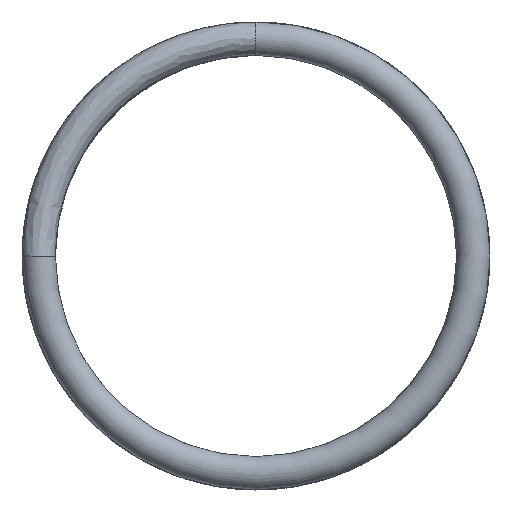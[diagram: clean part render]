
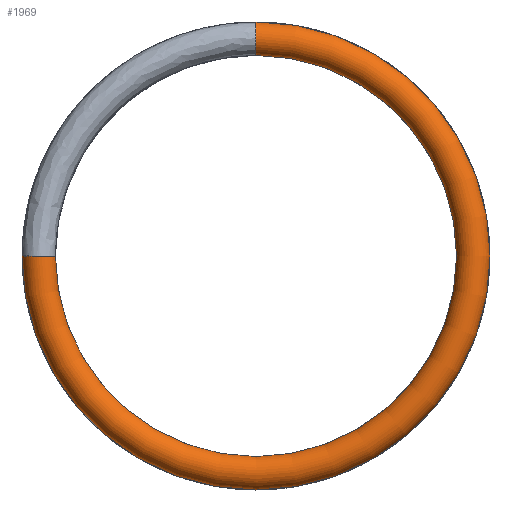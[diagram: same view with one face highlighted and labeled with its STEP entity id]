
A CAD part, front view. The second image highlights one B-rep face of the part: STEP entity #1969.
In plain terms, the highlighted toroidal (fillet/blend) face has major radius 3.25 mm and minor radius 0.25 mm.
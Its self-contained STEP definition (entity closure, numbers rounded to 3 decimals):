
#385=CARTESIAN_POINT('',(-3.5,0.,
0.));
#510=CARTESIAN_POINT('',(-3.,0.,
0.));
#512=CARTESIAN_POINT('',(-3.25,-0.25,
0.));
#517=CARTESIAN_POINT('',(-3.25,0.,0.));
#518=DIRECTION('',(0.,0.,-1.));
#519=DIRECTION('',(1.,0.,0.));
#520=AXIS2_PLACEMENT_3D('',#517,#518,#519);
#522=CARTESIAN_POINT('',(0.,0.,0.));
#523=DIRECTION('',(0.,1.,0.));
#524=DIRECTION('',(0.,0.,1.));
#525=AXIS2_PLACEMENT_3D('',#522,#523,#524);
#527=CARTESIAN_POINT('',(0.,0.,0.));
#528=DIRECTION('',(0.,1.,0.));
#529=DIRECTION('',(1.,0.,0.));
#530=AXIS2_PLACEMENT_3D('',#527,#528,#529);
#532=CARTESIAN_POINT('',(0.,0.,0.));
#533=DIRECTION('',(0.,1.,0.));
#534=DIRECTION('',(0.,0.,-1.));
#535=AXIS2_PLACEMENT_3D('',#532,#533,#534);
#542=CARTESIAN_POINT('',(0.,0.,0.));
#543=DIRECTION('',(0.,-1.,0.));
#544=DIRECTION('',(-1.,0.,0.));
#545=AXIS2_PLACEMENT_3D('',#542,#543,#544);
#547=CARTESIAN_POINT('',(0.,0.,0.));
#548=DIRECTION('',(0.,-1.,0.));
#549=DIRECTION('',(0.,0.,-1.));
#550=AXIS2_PLACEMENT_3D('',#547,#548,#549);
#581=CARTESIAN_POINT('',(0.,0.,3.25));
#582=DIRECTION('',(1.,0.,0.));
#583=DIRECTION('',(0.,0.,1.));
#584=AXIS2_PLACEMENT_3D('',#581,#582,#583);
#591=CARTESIAN_POINT('',(-3.25,-0.25,
0.));
#592=CARTESIAN_POINT('',(-3.297,-0.25,
0.));
#593=CARTESIAN_POINT('',(-3.38,-0.227,
0.));
#594=CARTESIAN_POINT('',(-3.476,-0.13,
0.));
#595=CARTESIAN_POINT('',(-3.5,-0.048,
0.));
#596=CARTESIAN_POINT('',(-3.5,0.,
0.));
#614=VERTEX_POINT('',#385);
#616=VERTEX_POINT('',#510);
#627=VERTEX_POINT('',#512);
#628=CARTESIAN_POINT('',(0.,0.,-3.));
#629=VERTEX_POINT('',#628);
#630=CARTESIAN_POINT('',(3.,0.,0.));
#631=VERTEX_POINT('',#630);
#632=CARTESIAN_POINT('',(0.,0.,3.));
#633=VERTEX_POINT('',#632);
#634=CARTESIAN_POINT('',(0.,0.,-3.5));
#635=CARTESIAN_POINT('',(0.,0.,3.5));
#636=VERTEX_POINT('',#634);
#637=VERTEX_POINT('',#635);
#1947=CARTESIAN_POINT('',(0.,0.,0.));
#1948=DIRECTION('',(0.,1.,0.));
#1949=DIRECTION('',(0.,0.,-1.));
#1950=AXIS2_PLACEMENT_3D('',#1947,#1948,#1949);
#1951=TOROIDAL_SURFACE('',#1950,3.25,0.25);
#1953=ORIENTED_EDGE('',*,*,#1952,.F.);
#1955=ORIENTED_EDGE('',*,*,#1954,.F.);
#1957=ORIENTED_EDGE('',*,*,#1956,.F.);
#1958=ORIENTED_EDGE('',*,*,#1942,.F.);
#1960=ORIENTED_EDGE('',*,*,#1959,.F.);
#1962=ORIENTED_EDGE('',*,*,#1961,.F.);
#1964=ORIENTED_EDGE('',*,*,#1963,.F.);
#1966=ORIENTED_EDGE('',*,*,#1965,.F.);
#1967=EDGE_LOOP('',(#1953,#1955,#1957,#1958,#1960,#1962,#1964,#1966));
#1968=FACE_OUTER_BOUND('',#1967,.F.);
#1969=ADVANCED_FACE('',(#1968),#1951,.T.);
#521=CIRCLE('',#520,0.25);
#526=CIRCLE('',#525,3.);
#531=CIRCLE('',#530,3.);
#536=CIRCLE('',#535,3.);
#546=CIRCLE('',#545,3.5);
#551=CIRCLE('',#550,3.5);
#585=CIRCLE('',#584,0.25);
#597=B_SPLINE_CURVE_WITH_KNOTS('',3,(#591,#592,#593,#594,#595,#596),
.UNSPECIFIED.,.F.,.F.,(4,1,1,4),(0.,0.333,0.667,1.),
.UNSPECIFIED.);
#1942=EDGE_CURVE('',#616,#627,#521,.T.);
#1952=EDGE_CURVE('',#636,#637,#551,.T.);
#1954=EDGE_CURVE('',#614,#636,#546,.T.);
#1956=EDGE_CURVE('',#627,#614,#597,.T.);
#1959=EDGE_CURVE('',#629,#616,#536,.T.);
#1961=EDGE_CURVE('',#631,#629,#531,.T.);
#1963=EDGE_CURVE('',#633,#631,#526,.T.);
#1965=EDGE_CURVE('',#637,#633,#585,.T.);
